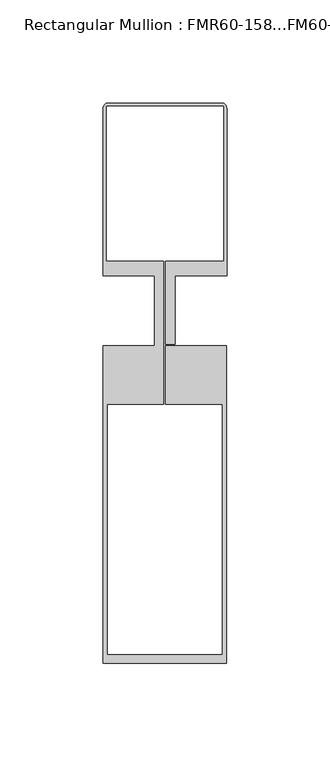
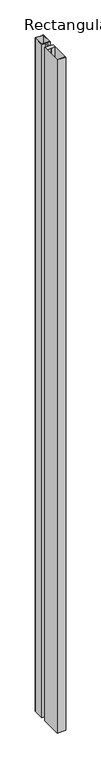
"""IFC4 building model written with IfcOpenShell, lengths in millimetres: member geometry, Rectangular Mullion : FMR60-158...FM60-81."""

from ifc_helpers import new_model, si_unit, frame, origin, place, context, project, spatial, circle_curve, source, transform, mapped, element, save
from ifc_brep_helpers import plane_surface, cylinder_surface, advanced_brep


def rectangular_mullion_fmr60_158_fm60_81_f3bf5128(model_context):
    return source(origin(), model_context, "Body", "AdvancedBrep", [
        advanced_brep(
        [(-27.4467543, 100.6769602, 0.0), (-29.8467543, 98.2769605, 0.0), (-29.8467604, 17.0, 0.0), (-5.0, 17.0, 0.0), (-5.0, -17.0, 0.0), (-30.0, -17.0, 0.0), (-30.0, -171.009342, 0.0), (30.0, -171.009342, 0.0), (30.0, -17.0, 0.0), (0.5, -17.0, 0.0), (0.5, -45.5034642, 0.0), (28.0, -45.5034642, 0.0), (28.0, -167.009342, 0.0), (-28.0, -167.009342, 0.0), (-28.0, -45.5034642, 0.0), (-0.5, -45.5034642, 0.0), (-0.5, 23.8476589, 0.0), (-28.4467543, 23.8476589, 0.0), (-28.4467543, 99.2769598, 0.0), (28.7532457, 99.2769598, 0.0), (28.7532457, 23.8476589, 0.0), (0.5, 23.8476589, 0.0), (0.5, -16.2, 0.0), (5.0, -16.2, 0.0), (5.0, 17.0, 0.0), (30.1532457, 17.0, 0.0), (30.1532457, 98.2769602, 0.0), (27.7532457, 100.6769602, 0.0), (-27.4467543, 100.6769602, -5000.0), (27.7532457, 100.6769602, -5000.0), (30.1532457, 98.2769602, -5000.0), (30.1532457, 17.0, -5000.0), (5.0, 17.0, -5000.0), (5.0, -16.2, -5000.0), (0.5, -16.2, -5000.0), (0.5, 23.8476589, -5000.0), (28.7532457, 23.8476589, -5000.0), (28.7532457, 99.2769598, -5000.0), (-28.4467543, 99.2769598, -5000.0), (-28.4467543, 23.8476589, -5000.0), (-0.5, 23.8476589, -5000.0), (-0.5, -45.5034642, -5000.0), (-28.0, -45.5034642, -5000.0), (-28.0, -167.009342, -5000.0), (28.0, -167.009342, -5000.0), (28.0, -45.5034642, -5000.0), (0.5, -45.5034642, -5000.0), (0.5, -17.0, -5000.0), (30.0, -17.0, -5000.0), (30.0, -171.009342, -5000.0), (-30.0, -171.009342, -5000.0), (-30.0, -17.0, -5000.0), (-5.0, -17.0, -5000.0), (-5.0, 17.0, -5000.0), (-29.8467604, 17.0, -5000.0), (-29.8467604, 98.2769605, -5000.0)],
        [
            (0, 1, circle_curve(frame((-27.4467543, 98.2769602, 0.0), z_axis=(0.0, 0.0, 1.0), x_axis=(-0.9999999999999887, 1.5085572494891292e-07, 0.0)), 2.4)),
            (1, 2),
            (2, 3),
            (3, 4),
            (4, 5),
            (5, 6),
            (6, 7),
            (7, 8),
            (8, 9),
            (9, 10),
            (10, 11),
            (11, 12),
            (12, 13),
            (13, 14),
            (14, 15),
            (15, 16),
            (16, 17),
            (17, 18),
            (18, 19),
            (19, 20),
            (20, 21),
            (21, 22),
            (22, 23),
            (23, 24),
            (24, 25),
            (25, 26),
            (26, 27, circle_curve(frame((27.7532457, 98.2769602, 0.0), z_axis=(0.0, 0.0, 1.0), x_axis=(0.0, 1.0, 0.0)), 2.4)),
            (27, 0),
            (28, 29),
            (29, 30, circle_curve(frame((27.7532457, 98.2769602, -5000.0), z_axis=(0.0, 0.0, -1.0), x_axis=(0.0, 1.0, 0.0)), 2.4)),
            (30, 31),
            (31, 32),
            (32, 33),
            (33, 34),
            (34, 35),
            (35, 36),
            (36, 37),
            (37, 38),
            (38, 39),
            (39, 40),
            (40, 41),
            (41, 42),
            (42, 43),
            (43, 44),
            (44, 45),
            (45, 46),
            (46, 47),
            (47, 48),
            (48, 49),
            (49, 50),
            (50, 51),
            (51, 52),
            (52, 53),
            (53, 54),
            (54, 55),
            (55, 28, circle_curve(frame((-27.4467543, 98.2769602, -5000.0), z_axis=(0.0, 0.0, -1.0), x_axis=(-0.9999999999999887, 1.5085572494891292e-07, 0.0)), 2.4)),
            (0, 28),
            (55, 1),
            (54, 2),
            (53, 3),
            (52, 4),
            (51, 5),
            (50, 6),
            (49, 7),
            (48, 8),
            (47, 9),
            (46, 10),
            (45, 11),
            (44, 12),
            (43, 13),
            (42, 14),
            (41, 15),
            (40, 16),
            (39, 17),
            (38, 18),
            (37, 19),
            (36, 20),
            (35, 21),
            (34, 22),
            (33, 23),
            (32, 24),
            (31, 25),
            (30, 26),
            (29, 27),
        ],
        [
            plane_surface(frame((0.0, -173.6208371, 0.0), z_axis=(0.0, 0.0, 1.0), x_axis=(-1.0, 0.0, 0.0))),
            plane_surface(frame((0.0, -173.6208371, -5000.0), z_axis=(0.0, 0.0, -1.0), x_axis=(-1.0, 0.0, 0.0))),
            cylinder_surface(frame((-27.4467543, 98.2769602, 0.0), z_axis=(0.0, 0.0, 1.0), x_axis=(-0.9999999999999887, 1.5085572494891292e-07, 0.0)), 2.4),
            plane_surface(frame((-29.8467604, 98.2769605, 0.0), z_axis=(-1.0, 0.0, 0.0), x_axis=(0.0, 0.0, -1.0))),
            plane_surface(frame((-29.8467604, 17.0, 0.0), z_axis=(0.0, -1.0, 0.0), x_axis=(0.0, 0.0, -1.0))),
            plane_surface(frame((-5.0, 17.0, 0.0), z_axis=(-1.0, 0.0, 0.0), x_axis=(0.0, 0.0, -1.0))),
            plane_surface(frame((-5.0, -17.0, 0.0), z_axis=(0.0, 1.0, 0.0), x_axis=(0.0, 0.0, -1.0))),
            plane_surface(frame((-30.0, -17.0, 0.0), z_axis=(-1.0, 0.0, 0.0), x_axis=(0.0, 0.0, -1.0))),
            plane_surface(frame((-30.0, -171.009342, 0.0), z_axis=(0.0, -1.0, 0.0), x_axis=(0.0, 0.0, -1.0))),
            plane_surface(frame((30.0, -171.009342, 0.0), z_axis=(1.0, 0.0, 0.0), x_axis=(0.0, 0.0, -1.0))),
            plane_surface(frame((30.0, -17.0, 0.0), z_axis=(0.0, 1.0, 0.0), x_axis=(0.0, 0.0, -1.0))),
            plane_surface(frame((0.5, -17.0, 0.0), z_axis=(-1.0, 0.0, 0.0), x_axis=(0.0, 0.0, -1.0))),
            plane_surface(frame((0.5, -45.5034642, 0.0), z_axis=(0.0, -1.0, 0.0), x_axis=(0.0, 0.0, -1.0))),
            plane_surface(frame((28.0, -45.5034642, 0.0), z_axis=(-1.0, 0.0, 0.0), x_axis=(0.0, 0.0, -1.0))),
            plane_surface(frame((28.0, -167.009342, 0.0), z_axis=(0.0, 1.0, 0.0), x_axis=(0.0, 0.0, -1.0))),
            plane_surface(frame((-28.0, -167.009342, 0.0), z_axis=(1.0, 0.0, 0.0), x_axis=(0.0, 0.0, -1.0))),
            plane_surface(frame((-28.0, -45.5034642, 0.0), z_axis=(0.0, -1.0, 0.0), x_axis=(0.0, 0.0, -1.0))),
            plane_surface(frame((-0.5, -45.5034642, 0.0), z_axis=(1.0, 0.0, 0.0), x_axis=(0.0, 0.0, -1.0))),
            plane_surface(frame((-0.5, 23.8476589, 0.0), z_axis=(0.0, 1.0, 0.0), x_axis=(0.0, 0.0, -1.0))),
            plane_surface(frame((-28.4467543, 23.8476589, 0.0), z_axis=(1.0, 0.0, 0.0), x_axis=(0.0, 0.0, -1.0))),
            plane_surface(frame((-28.4467543, 99.2769598, 0.0), z_axis=(0.0, -1.0, 0.0), x_axis=(0.0, 0.0, -1.0))),
            plane_surface(frame((28.7532457, 99.2769598, 0.0), z_axis=(-1.0, 0.0, 0.0), x_axis=(0.0, 0.0, -1.0))),
            plane_surface(frame((28.7532457, 23.8476589, 0.0), z_axis=(0.0, 1.0, 0.0), x_axis=(0.0, 0.0, -1.0))),
            plane_surface(frame((0.5, 23.8476589, 0.0), z_axis=(-1.0, 0.0, 0.0), x_axis=(0.0, 0.0, -1.0))),
            plane_surface(frame((0.5, -16.2, 0.0), z_axis=(0.0, -1.0, 0.0), x_axis=(0.0, 0.0, -1.0))),
            plane_surface(frame((5.0, -16.2, 0.0), z_axis=(1.0, 0.0, 0.0), x_axis=(0.0, 0.0, -1.0))),
            plane_surface(frame((5.0, 17.0, 0.0), z_axis=(0.0, -1.0, 0.0), x_axis=(0.0, 0.0, -1.0))),
            plane_surface(frame((30.1532457, 17.0, 0.0), z_axis=(1.0, 0.0, 0.0), x_axis=(0.0, 0.0, -1.0))),
            cylinder_surface(frame((27.7532457, 98.2769602, 0.0), z_axis=(0.0, 0.0, 1.0), x_axis=(0.0, 1.0, 0.0)), 2.4),
            plane_surface(frame((27.7532457, 100.6769602, 0.0), z_axis=(0.0, 1.0, 0.0), x_axis=(0.0, 0.0, -1.0))),
        ],
        [
            (0, [[1, 2, 3, 4, 5, 6, 7, 8, 9, 10, 11, 12, 13, 14, 15, 16, 17, 18, 19, 20, 21, 22, 23, 24, 25, 26, 27, 28]]),
            (1, [[29, 30, 31, 32, 33, 34, 35, 36, 37, 38, 39, 40, 41, 42, 43, 44, 45, 46, 47, 48, 49, 50, 51, 52, 53, 54, 55, 56]]),
            (2, [[-1, 57, -56, 58]]),
            (3, [[-2, -58, -55, 59]]),
            (4, [[-3, -59, -54, 60]]),
            (5, [[-4, -60, -53, 61]]),
            (6, [[-5, -61, -52, 62]]),
            (7, [[-6, -62, -51, 63]]),
            (8, [[-7, -63, -50, 64]]),
            (9, [[-8, -64, -49, 65]]),
            (10, [[-9, -65, -48, 66]]),
            (11, [[-10, -66, -47, 67]]),
            (12, [[-11, -67, -46, 68]]),
            (13, [[-12, -68, -45, 69]]),
            (14, [[-13, -69, -44, 70]]),
            (15, [[-14, -70, -43, 71]]),
            (16, [[-15, -71, -42, 72]]),
            (17, [[-16, -72, -41, 73]]),
            (18, [[-17, -73, -40, 74]]),
            (19, [[-18, -74, -39, 75]]),
            (20, [[-19, -75, -38, 76]]),
            (21, [[-20, -76, -37, 77]]),
            (22, [[-21, -77, -36, 78]]),
            (23, [[-22, -78, -35, 79]]),
            (24, [[-23, -79, -34, 80]]),
            (25, [[-24, -80, -33, 81]]),
            (26, [[-25, -81, -32, 82]]),
            (27, [[-26, -82, -31, 83]]),
            (28, [[-27, -83, -30, 84]]),
            (29, [[-28, -84, -29, -57]]),
        ],
    ),
    ])


if __name__ == "__main__":
    model = new_model("IFC4")
    model_context = context("Model", 3, world=origin())
    ifc_project = project(units=[si_unit("LENGTHUNIT", "METRE", prefix="MILLI")], contexts=[model_context])
    site = spatial("IfcSite", under=ifc_project)
    building = spatial("IfcBuilding", under=site)
    placement = place(None, origin())
    rectangular_mullion_fmr60_158_fm60_81_shape = rectangular_mullion_fmr60_158_fm60_81_f3bf5128(model_context)
    element("IfcMember", 1, ObjectType="Rectangular Mullion : FMR60-158...FM60-81", at=placement, inside=building, context=model_context, shape_type="MappedRepresentation", body=[
        mapped(rectangular_mullion_fmr60_158_fm60_81_shape, transform((0.0, 0.0, 0.0), x_axis=(1.0, 0.0, 0.0), y_axis=(0.0, 1.0, 0.0), z_axis=(0.0, 0.0, 1.0))),
    ])
    save(model, "model.ifc")
